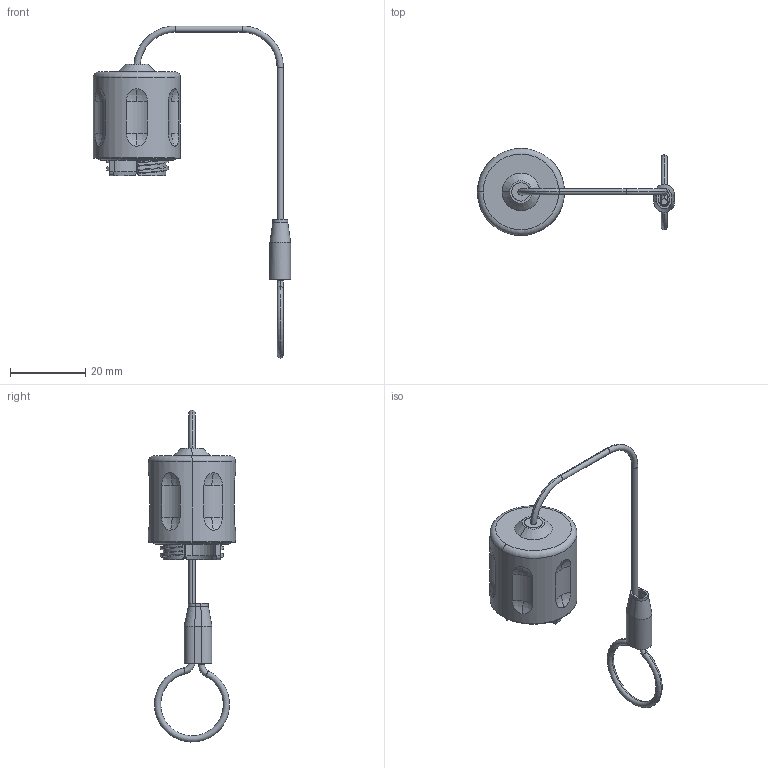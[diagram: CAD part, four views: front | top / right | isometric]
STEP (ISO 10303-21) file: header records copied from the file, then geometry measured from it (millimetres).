
FILE_DESCRIPTION (( 'STEP AP214' ), '1' );
FILE_NAME ('QMICRO90-DCHPX.STEP', '2025-05-02T23:40:47', ( '' ), ( '' ), 'SwSTEP 2.0', 'SolidWorks 2024', '' );
FILE_SCHEMA (( 'AUTOMOTIVE_DESIGN' ));
Length unit declared in the file: inch
Products named in the file (1): QMICRO90-DCHPX
Bounding box: 52.43 x 23.15 x 88.24 mm (x, y, z)
Volume: 9384.3 mm3; surface area: 5983.3 mm2
Topology: 4 solids, 4 shells, 199 faces, 487 edges, 308 vertices
Faces by surface type: cylinder 73, plane 42, sphere 24, bspline 23, torus 22, cone 15
Entity records: 9627 total; most frequent: CARTESIAN_POINT 5172, ORIENTED_EDGE 974, DIRECTION 855, EDGE_CURVE 487, AXIS2_PLACEMENT_3D 351, VERTEX_POINT 308, EDGE_LOOP 217, ADVANCED_FACE 199
